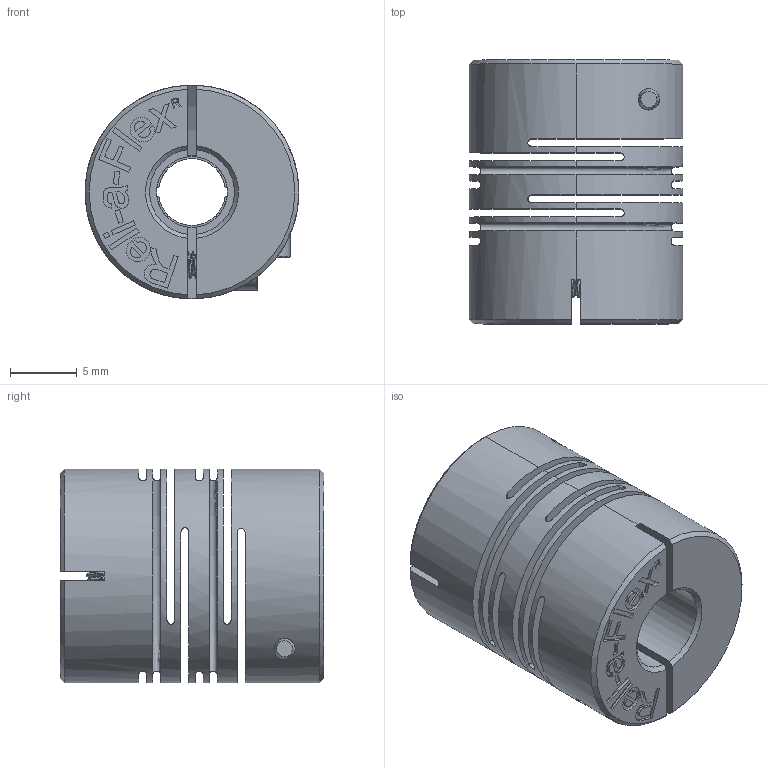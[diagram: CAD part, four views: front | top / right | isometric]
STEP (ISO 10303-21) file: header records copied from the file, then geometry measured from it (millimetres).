
FILE_DESCRIPTION (( 'STEP AP203' ), '1' );
FILE_NAME ('RCSA16C-0.250-5.STEP', '2012-04-26T13:32:59', ( 'render' ), ( '' ), 'SwSTEP 2.0', 'SolidWorks 2011', '' );
FILE_SCHEMA (( 'CONFIG_CONTROL_DESIGN' ));
Length unit declared in the file: millimetre
Products named in the file (1): RCSA16C-0.250-5
Bounding box: 16 x 19.75 x 16 mm (x, y, z)
Volume: 2688.9 mm3; surface area: 4342.5 mm2
Topology: 3 solids, 3 shells, 349 faces, 942 edges, 623 vertices
Faces by surface type: plane 158, cylinder 151, cone 18, torus 16, bspline 6
Entity records: 19210 total; most frequent: CARTESIAN_POINT 10646, ORIENTED_EDGE 1884, DIRECTION 1663, EDGE_CURVE 942, VERTEX_POINT 623, AXIS2_PLACEMENT_3D 584, LINE 495, VECTOR 495
